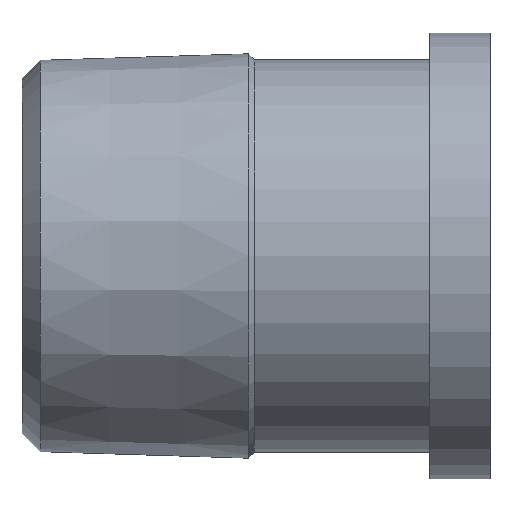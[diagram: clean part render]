
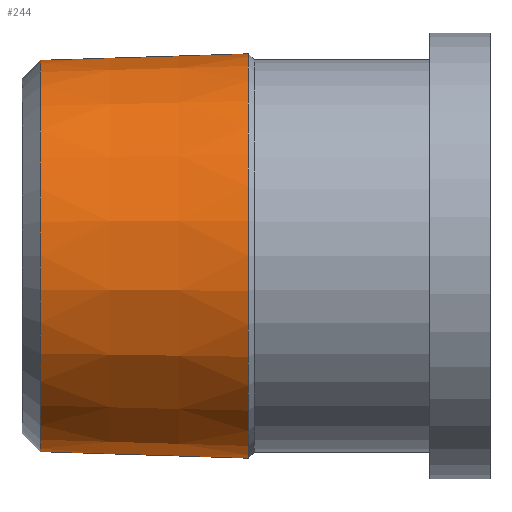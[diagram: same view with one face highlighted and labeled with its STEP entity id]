
A CAD part, top view. The second image highlights one B-rep face of the part: STEP entity #244.
In plain terms, the highlighted conical face has half-angle 1.79 degrees and reference radius 13.306 mm.
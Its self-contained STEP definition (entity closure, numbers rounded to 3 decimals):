
#16=CONICAL_SURFACE('',#280,13.306,1.79);
#20=FACE_BOUND('',#58,.T.);
#39=FACE_OUTER_BOUND('',#57,.T.);
#57=EDGE_LOOP('',(#205));
#58=EDGE_LOOP('',(#206));
#102=CIRCLE('',#279,12.961);
#103=CIRCLE('',#281,13.392);
#125=VERTEX_POINT('',#432);
#126=VERTEX_POINT('',#435);
#156=EDGE_CURVE('',#125,#125,#102,.T.);
#157=EDGE_CURVE('',#126,#126,#103,.T.);
#205=ORIENTED_EDGE('',*,*,#156,.T.);
#206=ORIENTED_EDGE('',*,*,#157,.F.);
#244=ADVANCED_FACE('',(#39,#20),#16,.T.);
#279=AXIS2_PLACEMENT_3D('',#433,#355,#356);
#280=AXIS2_PLACEMENT_3D('',#434,#357,#358);
#281=AXIS2_PLACEMENT_3D('',#436,#359,#360);
#355=DIRECTION('center_axis',(1.,0.,0.));
#356=DIRECTION('ref_axis',(0.,1.,0.));
#357=DIRECTION('center_axis',(1.,0.,0.));
#358=DIRECTION('ref_axis',(0.,1.,0.));
#359=DIRECTION('center_axis',(1.,0.,0.));
#360=DIRECTION('ref_axis',(0.,1.,0.));
#432=CARTESIAN_POINT('',(-29.8,12.961,0.));
#433=CARTESIAN_POINT('Origin',(-29.8,0.,0.));
#434=CARTESIAN_POINT('Origin',(-18.75,0.,0.));
#435=CARTESIAN_POINT('',(-16.,13.392,0.));
#436=CARTESIAN_POINT('Origin',(-16.,0.,0.));
